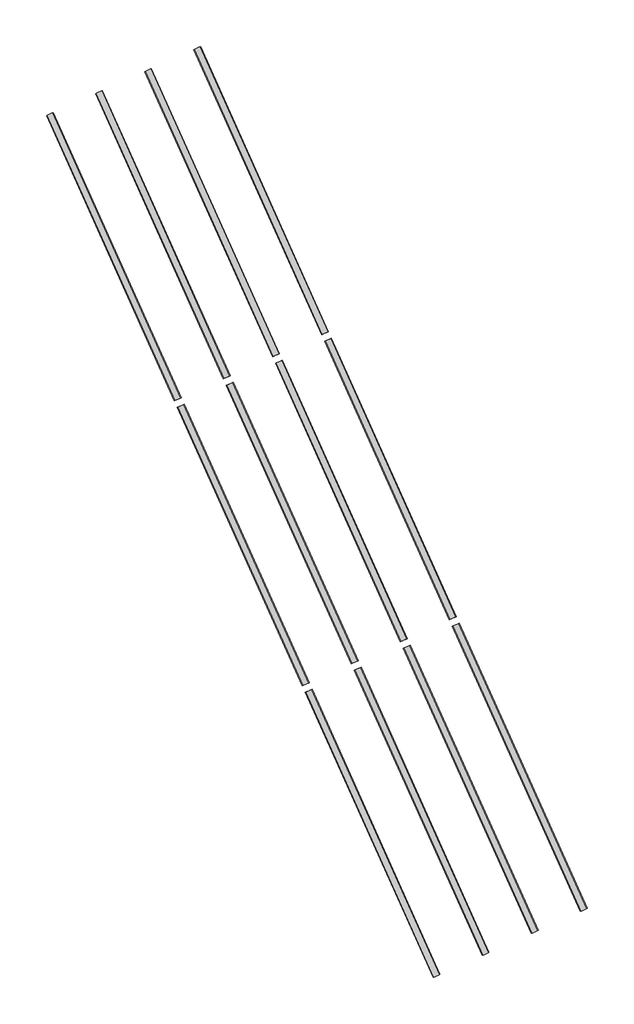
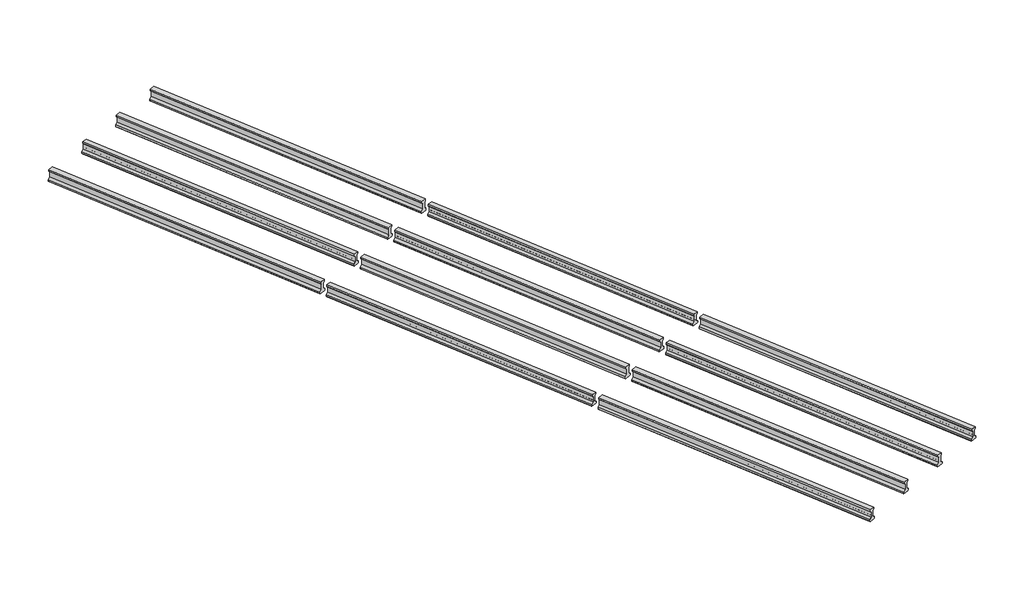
# One storey: 12 beams.
"""IFC4 building model written with IfcOpenShell, lengths in millimetres."""

from ifc_helpers import new_model, si_unit, origin, place, context, project, spatial, transform, mapped, element, save
from components import m_prestressed_concrete_i_beam_girder_m_prestressed_concrete_408f9f43, m_prestressed_concrete_i_beam_girder_m_prestressed_concrete_a927a00e, m_prestressed_concrete_i_beam_girder_m_prestressed_concrete_2b2928ab

model = new_model("IFC4")

# Units and contexts
model_context = context("Model", 3, world=origin())
ifc_project = project(units=[si_unit("LENGTHUNIT", "METRE", prefix="MILLI")], contexts=[model_context])

# Site, building, storey
site = spatial("IfcSite", under=ifc_project)
building = spatial("IfcBuilding", under=site)
storey = spatial("IfcBuildingStorey", under=building, Name="レベル 1", Elevation=0.0)

# Beams
placement = place(None, origin())
m_prestressed_concrete_i_beam_girder_m_prestressed_concrete_shape = m_prestressed_concrete_i_beam_girder_m_prestressed_concrete_408f9f43(model_context)
element("IfcBeam", 1, ObjectType="M_Prestressed Concrete I-Beam Girder : M_Prestressed Concrete I-Beam Girder", at=placement, inside=storey, context=model_context, shape_type="MappedRepresentation", body=[
    mapped(m_prestressed_concrete_i_beam_girder_m_prestressed_concrete_shape, transform((-2997.26705, 17287.336, -710.680896), x_axis=(0.40924630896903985, -0.9124239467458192, 0.0), y_axis=(0.9124239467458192, 0.40924630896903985, 0.0), z_axis=(0.0, 0.0, 1.0))),
])
element("IfcBeam", 2, ObjectType="M_Prestressed Concrete I-Beam Girder : M_Prestressed Concrete I-Beam Girder", at=placement, inside=storey, context=model_context, shape_type="MappedRepresentation", body=[
    mapped(m_prestressed_concrete_i_beam_girder_m_prestressed_concrete_shape, transform((-5637.21395, 16103.25, -652.814168), x_axis=(0.4092463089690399, -0.912423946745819, 0.0), y_axis=(0.912423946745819, 0.4092463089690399, 0.0), z_axis=(0.0, 0.0, 1.0))),
])
element("IfcBeam", 3, ObjectType="M_Prestressed Concrete I-Beam Girder : M_Prestressed Concrete I-Beam Girder", at=placement, inside=storey, context=model_context, shape_type="MappedRepresentation", body=[
    mapped(m_prestressed_concrete_i_beam_girder_m_prestressed_concrete_shape, transform((-8277.16055, 14919.1642, -652.814168), x_axis=(0.40924630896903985, -0.912423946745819, 0.0), y_axis=(0.912423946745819, 0.40924630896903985, 0.0), z_axis=(0.0, 0.0, 1.0))),
])
element("IfcBeam", 4, ObjectType="M_Prestressed Concrete I-Beam Girder : M_Prestressed Concrete I-Beam Girder", at=placement, inside=storey, context=model_context, shape_type="MappedRepresentation", body=[
    mapped(m_prestressed_concrete_i_beam_girder_m_prestressed_concrete_shape, transform((-10917.10745, 13735.0782, -710.680896), x_axis=(0.4092463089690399, -0.912423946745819, 0.0), y_axis=(0.912423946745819, 0.4092463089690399, 0.0), z_axis=(0.0, 0.0, 1.0))),
])
m_prestressed_concrete_i_beam_girder_m_prestressed_concrete_2_shape = m_prestressed_concrete_i_beam_girder_m_prestressed_concrete_a927a00e(model_context)
element("IfcBeam", 5, ObjectType="M_Prestressed Concrete I-Beam Girder : M_Prestressed Concrete I-Beam Girder", at=placement, inside=storey, context=model_context, shape_type="MappedRepresentation", body=[
    mapped(m_prestressed_concrete_i_beam_girder_m_prestressed_concrete_2_shape, transform((3959.9202, 1776.1289, -710.680896), x_axis=(0.4092463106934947, -0.9124239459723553, 0.0), y_axis=(0.9124239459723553, 0.4092463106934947, 0.0), z_axis=(0.0, 0.0, 1.0))),
])
element("IfcBeam", 6, ObjectType="M_Prestressed Concrete I-Beam Girder : M_Prestressed Concrete I-Beam Girder", at=placement, inside=storey, context=model_context, shape_type="MappedRepresentation", body=[
    mapped(m_prestressed_concrete_i_beam_girder_m_prestressed_concrete_2_shape, transform((1319.9733, 592.0429, -652.814168), x_axis=(0.4092463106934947, -0.9124239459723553, 0.0), y_axis=(0.9124239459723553, 0.4092463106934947, 0.0), z_axis=(0.0, 0.0, 1.0))),
])
element("IfcBeam", 7, ObjectType="M_Prestressed Concrete I-Beam Girder : M_Prestressed Concrete I-Beam Girder", at=placement, inside=storey, context=model_context, shape_type="MappedRepresentation", body=[
    mapped(m_prestressed_concrete_i_beam_girder_m_prestressed_concrete_2_shape, transform((-1319.9733, -592.0429, -652.814168), x_axis=(0.4092463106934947, -0.9124239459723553, 0.0), y_axis=(0.9124239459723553, 0.4092463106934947, 0.0), z_axis=(0.0, 0.0, 1.0))),
])
element("IfcBeam", 8, ObjectType="M_Prestressed Concrete I-Beam Girder : M_Prestressed Concrete I-Beam Girder", at=placement, inside=storey, context=model_context, shape_type="MappedRepresentation", body=[
    mapped(m_prestressed_concrete_i_beam_girder_m_prestressed_concrete_2_shape, transform((-3959.9202, -1776.1289, -710.680896), x_axis=(0.4092463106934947, -0.9124239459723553, 0.0), y_axis=(0.9124239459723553, 0.4092463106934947, 0.0), z_axis=(0.0, 0.0, 1.0))),
])
m_prestressed_concrete_i_beam_girder_m_prestressed_concrete_3_shape = m_prestressed_concrete_i_beam_girder_m_prestressed_concrete_2b2928ab(model_context)
element("IfcBeam", 9, ObjectType="M_Prestressed Concrete I-Beam Girder : M_Prestressed Concrete I-Beam Girder", at=placement, inside=storey, context=model_context, shape_type="MappedRepresentation", body=[
    mapped(m_prestressed_concrete_i_beam_girder_m_prestressed_concrete_3_shape, transform((10916.9082468, -13734.634072, -708.9211345), x_axis=(0.40924621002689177, -0.9124237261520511, 0.0006953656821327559), y_axis=(0.9124239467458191, 0.4092463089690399, 0.0), z_axis=(-0.0002845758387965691, 0.000634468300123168, 0.9999997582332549))),
])
element("IfcBeam", 10, ObjectType="M_Prestressed Concrete I-Beam Girder : M_Prestressed Concrete I-Beam Girder", at=placement, inside=storey, context=model_context, shape_type="MappedRepresentation", body=[
    mapped(m_prestressed_concrete_i_beam_girder_m_prestressed_concrete_3_shape, transform((8276.9613468, -14918.720072, -651.0544065), x_axis=(0.40924621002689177, -0.9124237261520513, 0.000695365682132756), y_axis=(0.9124239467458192, 0.4092463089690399, 0.0), z_axis=(-0.000284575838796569, 0.0006344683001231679, 0.9999997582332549))),
])
element("IfcBeam", 11, ObjectType="M_Prestressed Concrete I-Beam Girder : M_Prestressed Concrete I-Beam Girder", at=placement, inside=storey, context=model_context, shape_type="MappedRepresentation", body=[
    mapped(m_prestressed_concrete_i_beam_girder_m_prestressed_concrete_3_shape, transform((5637.0147468, -16102.805872, -651.0543065), x_axis=(0.40924621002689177, -0.9124237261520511, 0.0006953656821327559), y_axis=(0.9124239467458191, 0.4092463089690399, 0.0), z_axis=(-0.0002845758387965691, 0.0006344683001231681, 0.9999997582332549))),
])
element("IfcBeam", 12, ObjectType="M_Prestressed Concrete I-Beam Girder : M_Prestressed Concrete I-Beam Girder", at=placement, inside=storey, context=model_context, shape_type="MappedRepresentation", body=[
    mapped(m_prestressed_concrete_i_beam_girder_m_prestressed_concrete_3_shape, transform((2997.0678468, -17286.891872, -708.9211345), x_axis=(0.4092462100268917, -0.9124237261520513, 0.0006953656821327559), y_axis=(0.9124239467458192, 0.40924630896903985, 0.0), z_axis=(-0.000284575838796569, 0.000634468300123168, 0.9999997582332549))),
])

save(model, "model.ifc")
